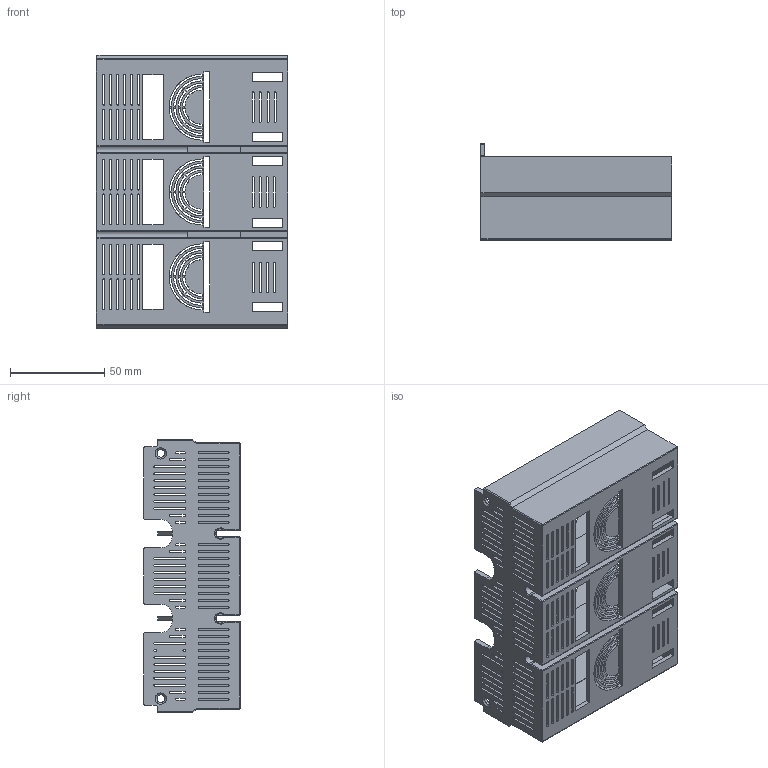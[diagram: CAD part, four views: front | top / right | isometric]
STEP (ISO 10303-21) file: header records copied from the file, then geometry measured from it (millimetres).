
FILE_DESCRIPTION (( 'STEP AP214' ), '1' );
FILE_NAME ('400-630 SPRC 3P.STEP', '2025-11-28T10:28:14', ( '' ), ( '' ), 'SwSTEP 2.0', 'SolidWorks 2024', '' );
FILE_SCHEMA (( 'AUTOMOTIVE_DESIGN' ));
Length unit declared in the file: millimetre
Products named in the file (1): 400-630 SPRC 3P
Bounding box: 101.7 x 51.04 x 145 mm (x, y, z)
Volume: 92296.3 mm3; surface area: 89122.9 mm2
Topology: 1 solids, 1 shells, 933 faces, 2883 edges, 1890 vertices
Faces by surface type: plane 519, cylinder 402, sphere 6, cone 4, torus 2
Entity records: 33016 total; most frequent: CARTESIAN_POINT 5783, ORIENTED_EDGE 5754, DIRECTION 5681, EDGE_CURVE 2877, LINE 1925, VECTOR 1925, VERTEX_POINT 1890, AXIS2_PLACEMENT_3D 1878
